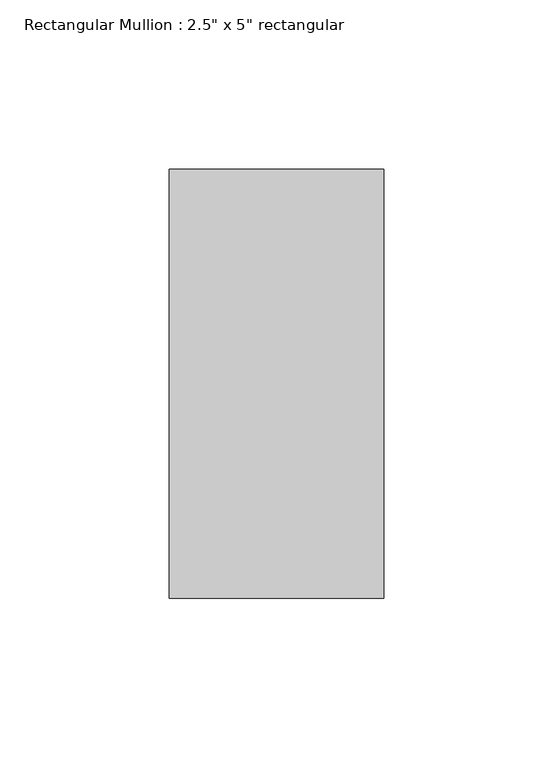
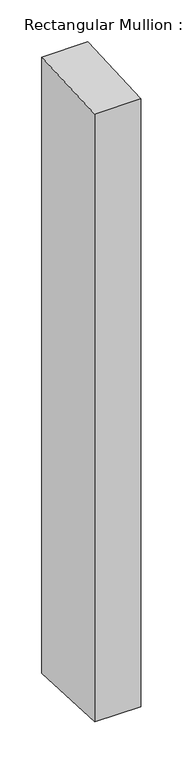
"""IFC4 building model written with IfcOpenShell, lengths in millimetres: member geometry."""

from ifc_helpers import new_model, si_unit, frame, origin, place, context, project, spatial, polyline, outline, extrude, source, transform, mapped, element, save


def member_67fc98f4(model_context):
    return source(origin(), model_context, "Body", "SweptSolid", [
        extrude(outline(polyline([(-63.5, -3.1625842), (63.5, 3.1625842), (63.5, -897.3817999), (-63.5, -891.0566315), (-63.5, -3.1625842)])), frame((-63.5, 0.0, 0.0), z_axis=(1.0, 0.0, 0.0), x_axis=(0.0, 1.0, 0.0)), (0.0, 0.0, 1.0), 63.5),
    ])


if __name__ == "__main__":
    model = new_model("IFC4")
    model_context = context("Model", 3, world=origin())
    ifc_project = project(units=[si_unit("LENGTHUNIT", "METRE", prefix="MILLI")], contexts=[model_context])
    site = spatial("IfcSite", under=ifc_project)
    building = spatial("IfcBuilding", under=site)
    placement = place(None, origin())
    member_shape = member_67fc98f4(model_context)
    element("IfcMember", 1, ObjectType="Rectangular Mullion : 2.5\" x 5\" rectangular", at=placement, inside=building, context=model_context, shape_type="MappedRepresentation", body=[
        mapped(member_shape, transform((0.0, 0.0, 0.0), x_axis=(1.0, 0.0, 0.0), y_axis=(0.0, 1.0, 0.0), z_axis=(0.0, 0.0, 1.0))),
    ])
    save(model, "model.ifc")
